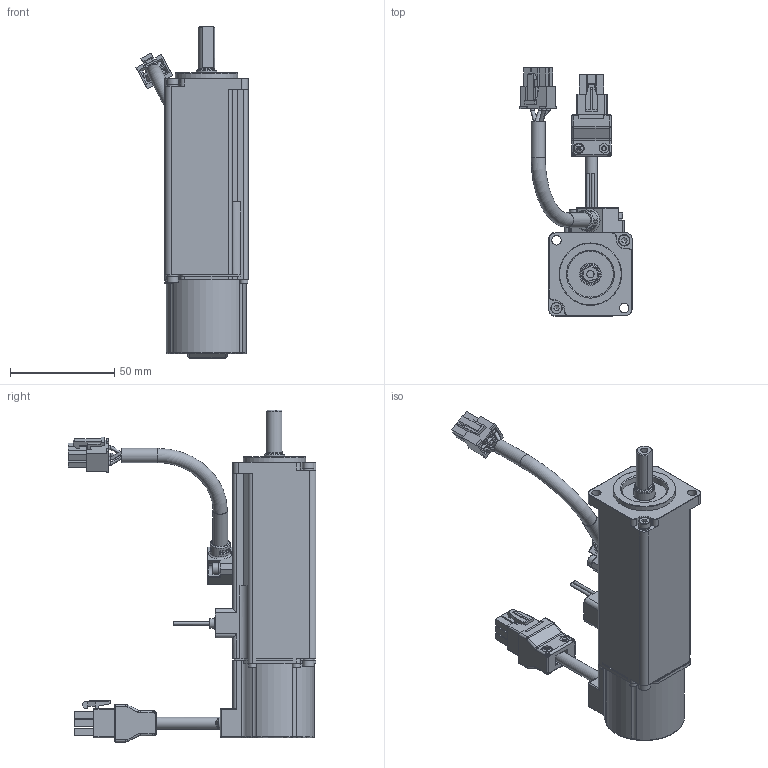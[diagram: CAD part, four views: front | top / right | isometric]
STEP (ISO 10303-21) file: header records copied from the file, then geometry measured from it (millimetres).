
FILE_DESCRIPTION(/* description */ (''),/* implementation_level */ '2;1');
FILE_NAME(/* name */ 'C:\Users\11755\Desktop\SME(磁編)\SME(磁編)_馬達外型圖(客戶版)\3D-STP\SME-L010B(磁編).stp',/* time_stamp */ '2021-07-30T11:13:23+08:00',/* author */ ('11755'),/* organization */ (''),/* preprocessor_version */ 'ST-DEVELOPER v17',/* originating_system */ 'Autodesk Inventor 2019',/* authorisation */ '');
FILE_SCHEMA (('AUTOMOTIVE_DESIGN { 1 0 10303 214 3 1 1 }'));
Products named in the file (1): SME-L010B(磁編)_20201118_Shrinkwrap_1
Bounding box: 53.85 x 119.11 x 159.5 mm (x, y, z)
Volume: 209853.6 mm3; surface area: 41405.4 mm2
Topology: 1 solids, 1 shells, 1456 faces, 4003 edges, 2599 vertices
Faces by surface type: plane 898, cylinder 273, cone 91, torus 84, bspline 72, sphere 38
Full cylindrical faces by diameter (mm): 1.2 x4, 1.5 x2, 1.6 x2, 2 x4, 2.6 x9, 3 x2, 3.2 x2, 3.8 x4, 4.2 x2, 4.5 x4, 5 x2, 5.32 x6, 5.5 x6, 5.8 x1, 6 x2, 6.1 x2, 6.8 x1, 7.2 x1, 7.8 x1, 8 x1, 8.6 x1, 9.6 x1, 9.8 x2, 10 x1, 10.6 x1, 11.4 x3, 22 x1, 30 x1
Entity records: 56041 total; most frequent: CARTESIAN_POINT 17802, ORIENTED_EDGE 7920, DIRECTION 7420, EDGE_CURVE 3960, VERTEX_POINT 2594, AXIS2_PLACEMENT_3D 2508, LINE 2404, VECTOR 2404
